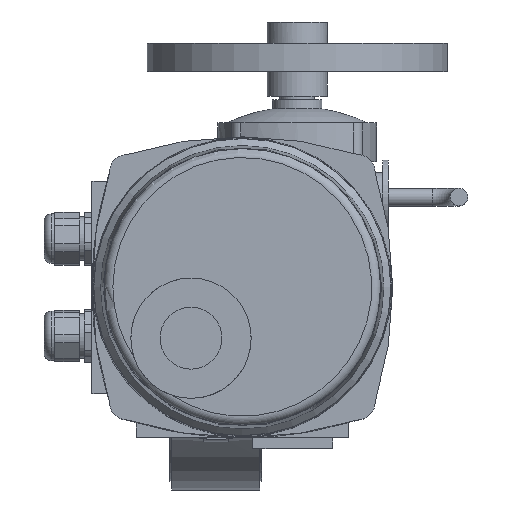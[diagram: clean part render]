
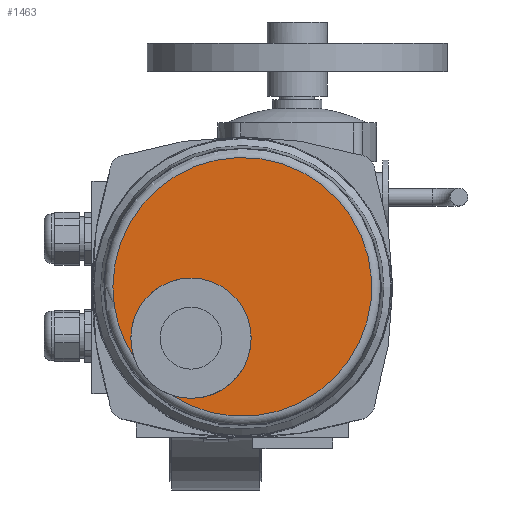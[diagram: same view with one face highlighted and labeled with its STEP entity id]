
A CAD part, top view. The second image highlights one B-rep face of the part: STEP entity #1463.
In plain terms, the highlighted planar face has unit normal (0, 0, 1).
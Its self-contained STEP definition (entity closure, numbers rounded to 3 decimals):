
#1463=ADVANCED_FACE('',(#8688),#8690,.T.);
#8688=FACE_BOUND('',#8689,.T.);
#8689=EDGE_LOOP('',(#14259,#14260,#14261,#14262));
#8690=PLANE('',#8691);
#8691=AXIS2_PLACEMENT_3D('',#8692,#8693,#8694);
#8692=CARTESIAN_POINT('',(15.,35.,452.));
#8693=DIRECTION('',(0.,0.,1.));
#8694=DIRECTION('',(-1.,0.,0.));
#14259=ORIENTED_EDGE('',*,*,#18381,.F.);
#14260=ORIENTED_EDGE('',*,*,#18382,.F.);
#14261=ORIENTED_EDGE('',*,*,#18363,.F.);
#14262=ORIENTED_EDGE('',*,*,#18362,.F.);
#18362=EDGE_CURVE('',#20882,#20885,#20886,.T.);
#18363=EDGE_CURVE('',#20885,#20883,#20887,.T.);
#18381=EDGE_CURVE('',#20910,#20882,#20911,.T.);
#18382=EDGE_CURVE('',#20883,#20910,#20912,.T.);
#20882=VERTEX_POINT('',#25829);
#20883=VERTEX_POINT('',#25830);
#20885=VERTEX_POINT('',#25859);
#20886=CIRCLE('',#25860,73.139);
#20887=CIRCLE('',#25864,73.139);
#20910=VERTEX_POINT('',#25941);
#20911=CIRCLE('',#25942,34.);
#20912=CIRCLE('',#25946,34.);
#25829=CARTESIAN_POINT('',(-46.08,-5.231,452.));
#25830=CARTESIAN_POINT('',(-25.231,-26.08,452.));
#25859=CARTESIAN_POINT('',(-58.139,35.,452.));
#25860=AXIS2_PLACEMENT_3D('',#25861,#25862,#25863);
#25861=CARTESIAN_POINT('',(15.,35.,452.));
#25862=DIRECTION('',(0.,0.,-1.));
#25863=DIRECTION('',(-0.835,-0.55,0.));
#25864=AXIS2_PLACEMENT_3D('',#25865,#25866,#25867);
#25865=CARTESIAN_POINT('',(15.,35.,452.));
#25866=DIRECTION('',(0.,0.,-1.));
#25867=DIRECTION('',(-1.,0.,0.));
#25941=CARTESIAN_POINT('',(-13.991,40.009,452.));
#25942=AXIS2_PLACEMENT_3D('',#25943,#25944,#25945);
#25943=CARTESIAN_POINT('',(-13.991,6.009,452.));
#25944=DIRECTION('',(0.,0.,1.));
#25945=DIRECTION('',(0.,1.,0.));
#25946=AXIS2_PLACEMENT_3D('',#25947,#25948,#25949);
#25947=CARTESIAN_POINT('',(-13.991,6.009,452.));
#25948=DIRECTION('',(0.,0.,1.));
#25949=DIRECTION('',(-0.331,-0.944,0.));
